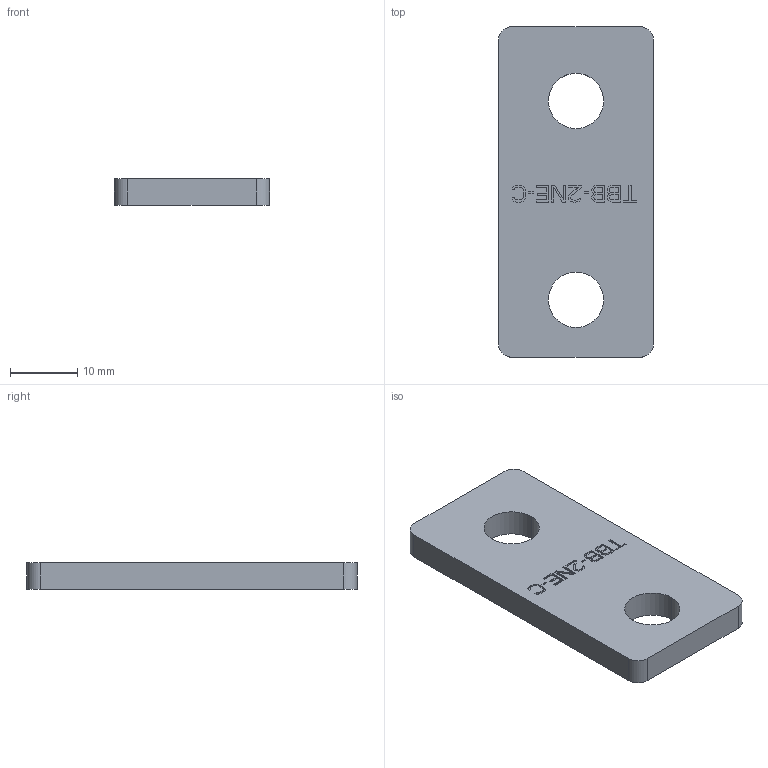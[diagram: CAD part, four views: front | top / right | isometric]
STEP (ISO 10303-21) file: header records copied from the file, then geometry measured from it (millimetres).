
FILE_DESCRIPTION((''),'2;1');
FILE_NAME('U2_BUSBAR_C','2018-06-04T',('HHI'),(''),'PRO/ENGINEER BY PARAMETRIC TECHNOLOGY CORPORATION, 2012453','PRO/ENGINEER BY PARAMETRIC TECHNOLOGY CORPORATION, 2012453','');
FILE_SCHEMA(('CONFIG_CONTROL_DESIGN'));
Length unit declared in the file: millimetre
Products named in the file (1): U2_BUSBAR_C
Bounding box: 23 x 49 x 4 mm (x, y, z)
Volume: 4068.8 mm3; surface area: 2824.3 mm2
Topology: 1 solids, 1 shells, 211 faces, 588 edges, 392 vertices
Faces by surface type: plane 203, cylinder 8
Entity records: 6684 total; most frequent: CARTESIAN_POINT 1191, ORIENTED_EDGE 1176, DIRECTION 1026, EDGE_CURVE 588, VECTOR 572, LINE 572, VERTEX_POINT 392, EDGE_LOOP 228
